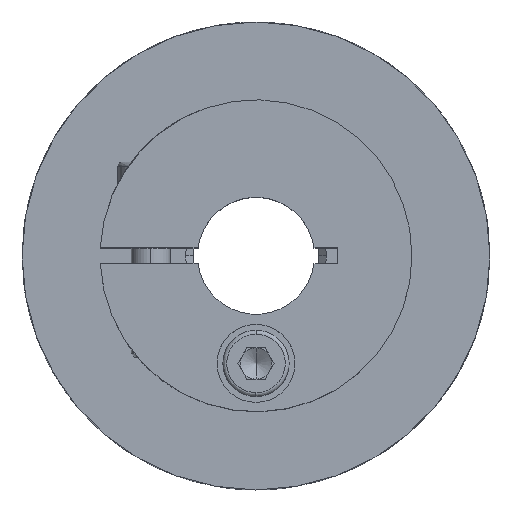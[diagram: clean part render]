
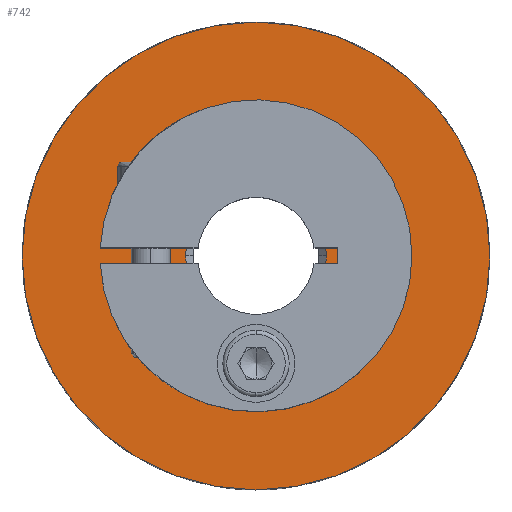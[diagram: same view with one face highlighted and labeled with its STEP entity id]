
A CAD part, top view. The second image highlights one B-rep face of the part: STEP entity #742.
In plain terms, the highlighted planar face has unit normal (0, 0, 1).
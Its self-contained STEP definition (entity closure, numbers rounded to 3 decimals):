
#11 = DIRECTION ( 'NONE',  ( 1., 0., 0. ) ) ;
#28 = CARTESIAN_POINT ( 'NONE',  ( -2.1, -13.8, 0. ) ) ;
#36 = CIRCLE ( 'NONE', #1380, 9.025 ) ;
#39 = CARTESIAN_POINT ( 'NONE',  ( 0., 0., 0. ) ) ;
#117 = ORIENTED_EDGE ( 'NONE', *, *, #1291, .F. ) ;
#144 = ORIENTED_EDGE ( 'NONE', *, *, #1001, .F. ) ;
#308 = DIRECTION ( 'NONE',  ( 0., 0., 1. ) ) ;
#312 = CARTESIAN_POINT ( 'NONE',  ( 0., 0., 0. ) ) ;
#352 = DIRECTION ( 'NONE',  ( 0., 0., -1. ) ) ;
#625 = DIRECTION ( 'NONE',  ( 0., 0., -1. ) ) ;
#676 = FACE_BOUND ( 'NONE', #2367, .T. ) ;
#742 = ADVANCED_FACE ( 'NONE', ( #5359, #676, #1871 ), #3175, .F. ) ;
#917 = EDGE_CURVE ( 'NONE', #2044, #3617, #36, .T. ) ;
#941 = CARTESIAN_POINT ( 'NONE',  ( 0., -13.8, 0. ) ) ;
#1001 = EDGE_CURVE ( 'NONE', #3498, #1791, #1470, .T. ) ;
#1056 = DIRECTION ( 'NONE',  ( -1., 0., 0. ) ) ;
#1060 = CARTESIAN_POINT ( 'NONE',  ( -9.025, 0., 0. ) ) ;
#1179 = ORIENTED_EDGE ( 'NONE', *, *, #2995, .F. ) ;
#1291 = EDGE_CURVE ( 'NONE', #3617, #2044, #1578, .T. ) ;
#1307 = EDGE_LOOP ( 'NONE', ( #3649, #2261 ) ) ;
#1378 = DIRECTION ( 'NONE',  ( 0., 0., 1. ) ) ;
#1380 = AXIS2_PLACEMENT_3D ( 'NONE', #3933, #1378, #5328 ) ;
#1470 = CIRCLE ( 'NONE', #2566, 2.1 ) ;
#1496 = CIRCLE ( 'NONE', #4448, 30. ) ;
#1578 = CIRCLE ( 'NONE', #3717, 9.025 ) ;
#1714 = AXIS2_PLACEMENT_3D ( 'NONE', #941, #3914, #5223 ) ;
#1754 = CARTESIAN_POINT ( 'NONE',  ( 0., 0., 0. ) ) ;
#1791 = VERTEX_POINT ( 'NONE', #2994 ) ;
#1820 = DIRECTION ( 'NONE',  ( 0., 0., 1. ) ) ;
#1871 = FACE_BOUND ( 'NONE', #2707, .T. ) ;
#2031 = DIRECTION ( 'NONE',  ( 1., 0., 0. ) ) ;
#2044 = VERTEX_POINT ( 'NONE', #1060 ) ;
#2137 = CARTESIAN_POINT ( 'NONE',  ( 30., 0., 0. ) ) ;
#2261 = ORIENTED_EDGE ( 'NONE', *, *, #2569, .F. ) ;
#2367 = EDGE_LOOP ( 'NONE', ( #117, #5397 ) ) ;
#2566 = AXIS2_PLACEMENT_3D ( 'NONE', #4616, #308, #4175 ) ;
#2569 = EDGE_CURVE ( 'NONE', #3898, #4492, #3727, .T. ) ;
#2684 = CIRCLE ( 'NONE', #1714, 2.1 ) ;
#2707 = EDGE_LOOP ( 'NONE', ( #1179, #144 ) ) ;
#2994 = CARTESIAN_POINT ( 'NONE',  ( 2.1, -13.8, 0. ) ) ;
#2995 = EDGE_CURVE ( 'NONE', #1791, #3498, #2684, .T. ) ;
#3064 = DIRECTION ( 'NONE',  ( 1., 0., 0. ) ) ;
#3079 = AXIS2_PLACEMENT_3D ( 'NONE', #4862, #625, #1056 ) ;
#3175 = PLANE ( 'NONE',  #3079 ) ;
#3498 = VERTEX_POINT ( 'NONE', #28 ) ;
#3617 = VERTEX_POINT ( 'NONE', #5232 ) ;
#3649 = ORIENTED_EDGE ( 'NONE', *, *, #4325, .F. ) ;
#3717 = AXIS2_PLACEMENT_3D ( 'NONE', #39, #1820, #3064 ) ;
#3727 = CIRCLE ( 'NONE', #5501, 30. ) ;
#3848 = DIRECTION ( 'NONE',  ( 0., 0., -1. ) ) ;
#3898 = VERTEX_POINT ( 'NONE', #4001 ) ;
#3914 = DIRECTION ( 'NONE',  ( 0., 0., 1. ) ) ;
#3933 = CARTESIAN_POINT ( 'NONE',  ( 0., 0., 0. ) ) ;
#4001 = CARTESIAN_POINT ( 'NONE',  ( -30., 0., 0. ) ) ;
#4175 = DIRECTION ( 'NONE',  ( 1., 0., 0. ) ) ;
#4325 = EDGE_CURVE ( 'NONE', #4492, #3898, #1496, .T. ) ;
#4448 = AXIS2_PLACEMENT_3D ( 'NONE', #312, #352, #2031 ) ;
#4492 = VERTEX_POINT ( 'NONE', #2137 ) ;
#4616 = CARTESIAN_POINT ( 'NONE',  ( 0., -13.8, 0. ) ) ;
#4862 = CARTESIAN_POINT ( 'NONE',  ( 0., 8.025, 0. ) ) ;
#5223 = DIRECTION ( 'NONE',  ( 1., 0., 0. ) ) ;
#5232 = CARTESIAN_POINT ( 'NONE',  ( 9.025, 0., 0. ) ) ;
#5328 = DIRECTION ( 'NONE',  ( 1., 0., 0. ) ) ;
#5359 = FACE_OUTER_BOUND ( 'NONE', #1307, .T. ) ;
#5397 = ORIENTED_EDGE ( 'NONE', *, *, #917, .F. ) ;
#5501 = AXIS2_PLACEMENT_3D ( 'NONE', #1754, #3848, #11 ) ;
